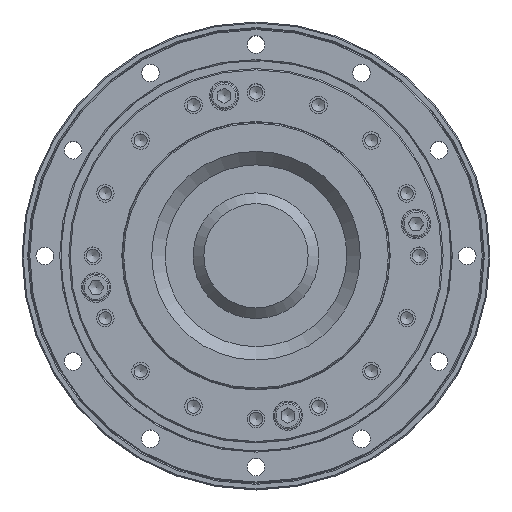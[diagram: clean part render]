
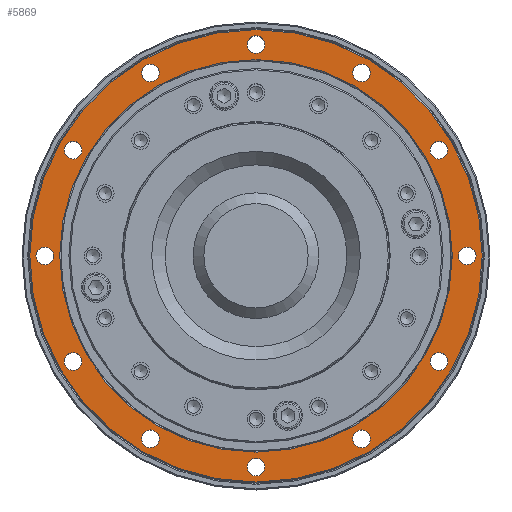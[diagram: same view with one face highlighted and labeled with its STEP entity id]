
A CAD part, top view. The second image highlights one B-rep face of the part: STEP entity #5869.
In plain terms, the highlighted planar face has unit normal (0, 0, 1).
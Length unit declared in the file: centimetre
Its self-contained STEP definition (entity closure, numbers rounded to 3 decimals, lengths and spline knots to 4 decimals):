
#838=PLANE('',#6513);
#1060=FACE_BOUND('',#2138,.T.);
#1061=FACE_BOUND('',#2139,.T.);
#1062=FACE_BOUND('',#2140,.T.);
#1063=FACE_BOUND('',#2141,.T.);
#1064=FACE_BOUND('',#2142,.T.);
#1065=FACE_BOUND('',#2143,.T.);
#1066=FACE_BOUND('',#2144,.T.);
#1067=FACE_BOUND('',#2145,.T.);
#1068=FACE_BOUND('',#2146,.T.);
#1069=FACE_BOUND('',#2147,.T.);
#1070=FACE_BOUND('',#2148,.T.);
#1071=FACE_BOUND('',#2149,.T.);
#1072=FACE_BOUND('',#2150,.T.);
#1073=FACE_BOUND('',#2151,.T.);
#2138=EDGE_LOOP('',(#4878));
#2139=EDGE_LOOP('',(#4879));
#2140=EDGE_LOOP('',(#4880));
#2141=EDGE_LOOP('',(#4881));
#2142=EDGE_LOOP('',(#4882));
#2143=EDGE_LOOP('',(#4883));
#2144=EDGE_LOOP('',(#4884));
#2145=EDGE_LOOP('',(#4885));
#2146=EDGE_LOOP('',(#4886));
#2147=EDGE_LOOP('',(#4887));
#2148=EDGE_LOOP('',(#4888));
#2149=EDGE_LOOP('',(#4889));
#2150=EDGE_LOOP('',(#4890));
#2151=EDGE_LOOP('',(#4891));
#2881=CIRCLE('',#6512,8.46);
#2882=CIRCLE('',#6514,0.33);
#2883=CIRCLE('',#6515,0.33);
#2884=CIRCLE('',#6516,0.33);
#2885=CIRCLE('',#6517,0.33);
#2886=CIRCLE('',#6518,0.33);
#2887=CIRCLE('',#6519,0.33);
#2888=CIRCLE('',#6520,0.33);
#2889=CIRCLE('',#6521,0.33);
#2890=CIRCLE('',#6522,0.33);
#2891=CIRCLE('',#6523,0.33);
#2892=CIRCLE('',#6524,0.33);
#2893=CIRCLE('',#6525,0.33);
#2894=CIRCLE('',#6526,7.34);
#3401=VERTEX_POINT('',#9866);
#3402=VERTEX_POINT('',#9869);
#3403=VERTEX_POINT('',#9871);
#3404=VERTEX_POINT('',#9873);
#3405=VERTEX_POINT('',#9875);
#3406=VERTEX_POINT('',#9877);
#3407=VERTEX_POINT('',#9879);
#3408=VERTEX_POINT('',#9881);
#3409=VERTEX_POINT('',#9883);
#3410=VERTEX_POINT('',#9885);
#3411=VERTEX_POINT('',#9887);
#3412=VERTEX_POINT('',#9889);
#3413=VERTEX_POINT('',#9891);
#3414=VERTEX_POINT('',#9893);
#4002=EDGE_CURVE('',#3401,#3401,#2881,.T.);
#4003=EDGE_CURVE('',#3402,#3402,#2882,.T.);
#4004=EDGE_CURVE('',#3403,#3403,#2883,.T.);
#4005=EDGE_CURVE('',#3404,#3404,#2884,.T.);
#4006=EDGE_CURVE('',#3405,#3405,#2885,.T.);
#4007=EDGE_CURVE('',#3406,#3406,#2886,.T.);
#4008=EDGE_CURVE('',#3407,#3407,#2887,.T.);
#4009=EDGE_CURVE('',#3408,#3408,#2888,.T.);
#4010=EDGE_CURVE('',#3409,#3409,#2889,.T.);
#4011=EDGE_CURVE('',#3410,#3410,#2890,.T.);
#4012=EDGE_CURVE('',#3411,#3411,#2891,.T.);
#4013=EDGE_CURVE('',#3412,#3412,#2892,.T.);
#4014=EDGE_CURVE('',#3413,#3413,#2893,.T.);
#4015=EDGE_CURVE('',#3414,#3414,#2894,.T.);
#4878=ORIENTED_EDGE('',*,*,#4003,.T.);
#4879=ORIENTED_EDGE('',*,*,#4004,.T.);
#4880=ORIENTED_EDGE('',*,*,#4005,.T.);
#4881=ORIENTED_EDGE('',*,*,#4006,.T.);
#4882=ORIENTED_EDGE('',*,*,#4007,.T.);
#4883=ORIENTED_EDGE('',*,*,#4008,.T.);
#4884=ORIENTED_EDGE('',*,*,#4009,.T.);
#4885=ORIENTED_EDGE('',*,*,#4010,.T.);
#4886=ORIENTED_EDGE('',*,*,#4011,.T.);
#4887=ORIENTED_EDGE('',*,*,#4012,.T.);
#4888=ORIENTED_EDGE('',*,*,#4013,.T.);
#4889=ORIENTED_EDGE('',*,*,#4014,.T.);
#4890=ORIENTED_EDGE('',*,*,#4002,.F.);
#4891=ORIENTED_EDGE('',*,*,#4015,.F.);
#5869=ADVANCED_FACE('',(#1060,#1061,#1062,#1063,#1064,#1065,#1066,#1067,
#1068,#1069,#1070,#1071,#1072,#1073),#838,.T.);
#6512=AXIS2_PLACEMENT_3D('',#9867,#7844,#7845);
#6513=AXIS2_PLACEMENT_3D('',#9868,#7846,#7847);
#6514=AXIS2_PLACEMENT_3D('',#9870,#7848,#7849);
#6515=AXIS2_PLACEMENT_3D('',#9872,#7850,#7851);
#6516=AXIS2_PLACEMENT_3D('',#9874,#7852,#7853);
#6517=AXIS2_PLACEMENT_3D('',#9876,#7854,#7855);
#6518=AXIS2_PLACEMENT_3D('',#9878,#7856,#7857);
#6519=AXIS2_PLACEMENT_3D('',#9880,#7858,#7859);
#6520=AXIS2_PLACEMENT_3D('',#9882,#7860,#7861);
#6521=AXIS2_PLACEMENT_3D('',#9884,#7862,#7863);
#6522=AXIS2_PLACEMENT_3D('',#9886,#7864,#7865);
#6523=AXIS2_PLACEMENT_3D('',#9888,#7866,#7867);
#6524=AXIS2_PLACEMENT_3D('',#9890,#7868,#7869);
#6525=AXIS2_PLACEMENT_3D('',#9892,#7870,#7871);
#6526=AXIS2_PLACEMENT_3D('',#9894,#7872,#7873);
#7844=DIRECTION('center_axis',(0.,0.,-1.));
#7845=DIRECTION('ref_axis',(0.,1.,0.));
#7846=DIRECTION('center_axis',(0.,0.,1.));
#7847=DIRECTION('ref_axis',(-1.,0.,0.));
#7848=DIRECTION('center_axis',(0.,0.,-1.));
#7849=DIRECTION('ref_axis',(1.,0.,0.));
#7850=DIRECTION('center_axis',(0.,0.,-1.));
#7851=DIRECTION('ref_axis',(1.,0.,0.));
#7852=DIRECTION('center_axis',(0.,0.,-1.));
#7853=DIRECTION('ref_axis',(1.,0.,0.));
#7854=DIRECTION('center_axis',(0.,0.,-1.));
#7855=DIRECTION('ref_axis',(1.,0.,0.));
#7856=DIRECTION('center_axis',(0.,0.,-1.));
#7857=DIRECTION('ref_axis',(1.,0.,0.));
#7858=DIRECTION('center_axis',(0.,0.,-1.));
#7859=DIRECTION('ref_axis',(1.,0.,0.));
#7860=DIRECTION('center_axis',(0.,0.,-1.));
#7861=DIRECTION('ref_axis',(1.,0.,0.));
#7862=DIRECTION('center_axis',(0.,0.,-1.));
#7863=DIRECTION('ref_axis',(1.,0.,0.));
#7864=DIRECTION('center_axis',(0.,0.,-1.));
#7865=DIRECTION('ref_axis',(1.,0.,0.));
#7866=DIRECTION('center_axis',(0.,0.,-1.));
#7867=DIRECTION('ref_axis',(1.,0.,0.));
#7868=DIRECTION('center_axis',(0.,0.,-1.));
#7869=DIRECTION('ref_axis',(1.,0.,0.));
#7870=DIRECTION('center_axis',(0.,0.,-1.));
#7871=DIRECTION('ref_axis',(1.,0.,0.));
#7872=DIRECTION('center_axis',(0.,0.,1.));
#7873=DIRECTION('ref_axis',(0.,1.,0.));
#9866=CARTESIAN_POINT('',(0.,-8.46,2.75));
#9867=CARTESIAN_POINT('Origin',(0.,0.,2.75));
#9868=CARTESIAN_POINT('Origin',(0.,-8.5,2.75));
#9869=CARTESIAN_POINT('',(3.62,-6.8416,2.75));
#9870=CARTESIAN_POINT('Origin',(3.95,-6.8416,2.75));
#9871=CARTESIAN_POINT('',(-4.28,-6.8416,2.75));
#9872=CARTESIAN_POINT('Origin',(-3.95,-6.8416,2.75));
#9873=CARTESIAN_POINT('',(-8.23,0.,2.75));
#9874=CARTESIAN_POINT('Origin',(-7.9,0.,2.75));
#9875=CARTESIAN_POINT('',(-4.28,6.8416,2.75));
#9876=CARTESIAN_POINT('Origin',(-3.95,6.8416,2.75));
#9877=CARTESIAN_POINT('',(3.62,6.8416,2.75));
#9878=CARTESIAN_POINT('Origin',(3.95,6.8416,2.75));
#9879=CARTESIAN_POINT('',(7.57,0.,2.75));
#9880=CARTESIAN_POINT('Origin',(7.9,0.,2.75));
#9881=CARTESIAN_POINT('',(6.5116,3.95,2.75));
#9882=CARTESIAN_POINT('Origin',(6.8416,3.95,2.75));
#9883=CARTESIAN_POINT('',(-0.33,7.9,2.75));
#9884=CARTESIAN_POINT('Origin',(0.,7.9,2.75));
#9885=CARTESIAN_POINT('',(-7.1716,3.95,2.75));
#9886=CARTESIAN_POINT('Origin',(-6.8416,3.95,2.75));
#9887=CARTESIAN_POINT('',(-7.1716,-3.95,2.75));
#9888=CARTESIAN_POINT('Origin',(-6.8416,-3.95,2.75));
#9889=CARTESIAN_POINT('',(-0.33,-7.9,2.75));
#9890=CARTESIAN_POINT('Origin',(0.,-7.9,2.75));
#9891=CARTESIAN_POINT('',(6.5116,-3.95,2.75));
#9892=CARTESIAN_POINT('Origin',(6.8416,-3.95,2.75));
#9893=CARTESIAN_POINT('',(0.,-7.34,2.75));
#9894=CARTESIAN_POINT('Origin',(0.,0.,2.75));
